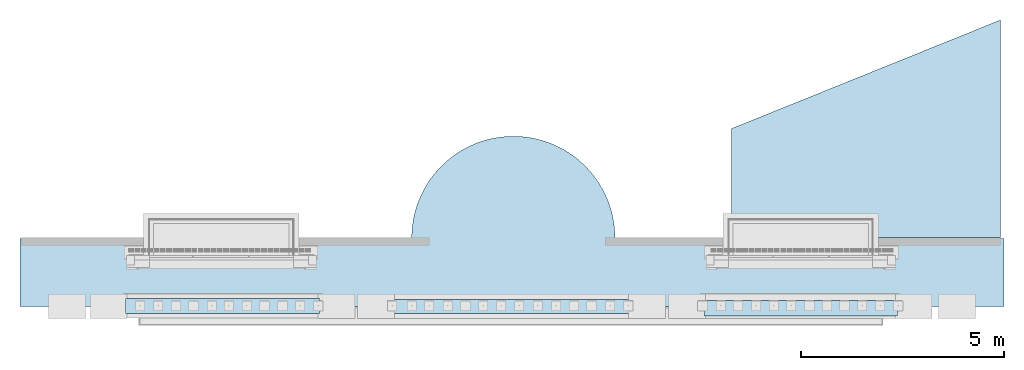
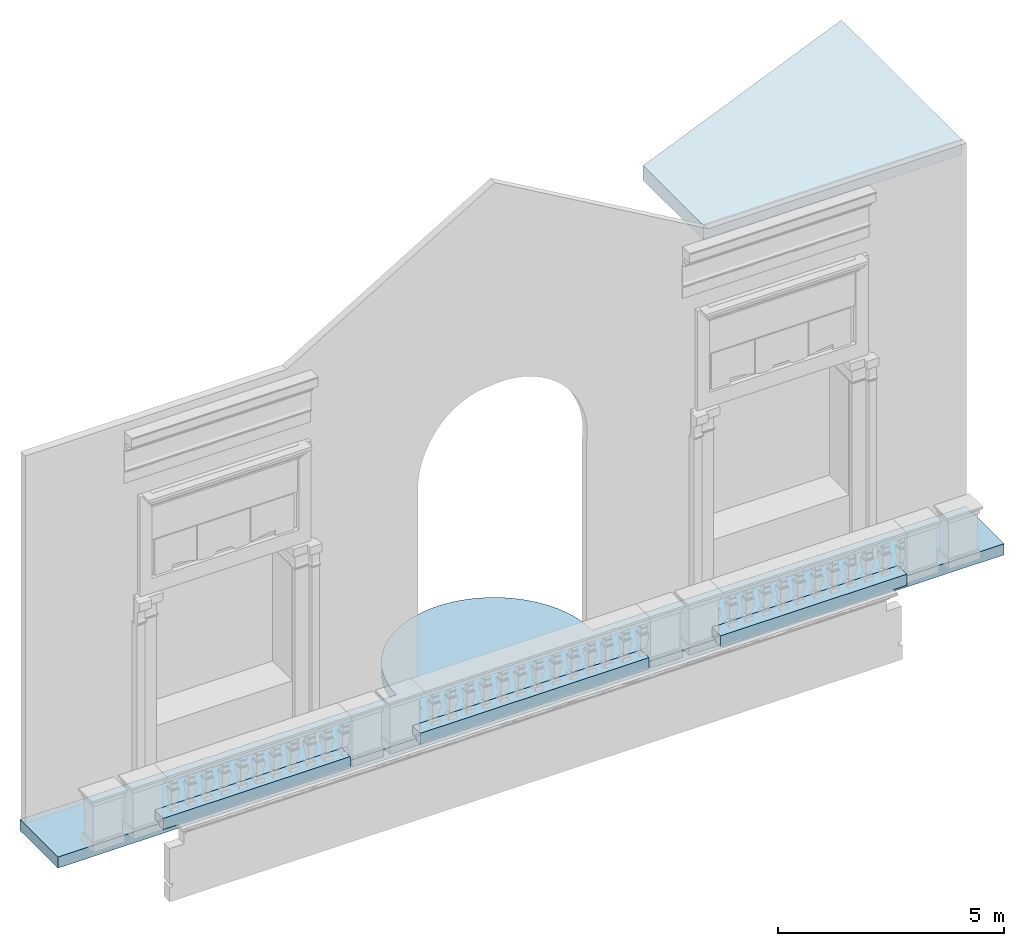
# One storey, part 1 of 14: 5 slabs, 1 element without a shape of its own.
"""IFC2X3 building model written with IfcOpenShell, lengths in metres."""

from ifc_helpers import new_model, entity, si_unit, converted_unit, derived_unit, direction, frame, frame_2d, origin, place, context, subcontext, project, spatial, polyline, circle_curve, parameter, trimmed, segment, composite_curve, rectangle, outline, extrude, material, layer, layer_set, layer_usage, element, aggregate, save


model = new_model("IFC2X3")

# Units and contexts
model_context = context("Model", 3, precision=1e-05, world=origin(), true_north=direction((6.12303176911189e-17, 1.0)))
body_context = subcontext(model_context, "Body", "Model", "MODEL_VIEW")
ifc_project = project(units=[si_unit("LENGTHUNIT", "METRE"), si_unit("AREAUNIT", "SQUARE_METRE"), si_unit("VOLUMEUNIT", "CUBIC_METRE"), converted_unit("PLANEANGLEUNIT", "DEGREE", entity("IfcRatioMeasure", 0.0174532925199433), si_unit("PLANEANGLEUNIT", "RADIAN"), dimensions=[0, 0, 0, 0, 0, 0, 0]), si_unit("MASSUNIT", "GRAM", prefix="KILO"), derived_unit("MASSDENSITYUNIT", [(si_unit("MASSUNIT", "GRAM", prefix="KILO"), 1), (si_unit("LENGTHUNIT", "METRE"), -3)]), si_unit("TIMEUNIT", "SECOND"), si_unit("FREQUENCYUNIT", "HERTZ"), si_unit("THERMODYNAMICTEMPERATUREUNIT", "DEGREE_CELSIUS"), derived_unit("THERMALTRANSMITTANCEUNIT", [(si_unit("MASSUNIT", "GRAM", prefix="KILO"), 1), (si_unit("THERMODYNAMICTEMPERATUREUNIT", "KELVIN"), -1), (si_unit("TIMEUNIT", "SECOND"), -3)]), derived_unit("VOLUMETRICFLOWRATEUNIT", [(si_unit("LENGTHUNIT", "METRE"), 3), (si_unit("TIMEUNIT", "SECOND"), -1)]), si_unit("ELECTRICCURRENTUNIT", "AMPERE"), si_unit("ELECTRICVOLTAGEUNIT", "VOLT"), si_unit("POWERUNIT", "WATT"), si_unit("FORCEUNIT", "NEWTON", prefix="KILO"), si_unit("ILLUMINANCEUNIT", "LUX"), si_unit("LUMINOUSFLUXUNIT", "LUMEN"), si_unit("LUMINOUSINTENSITYUNIT", "CANDELA"), derived_unit("USERDEFINED", [(si_unit("MASSUNIT", "GRAM", prefix="KILO"), -1), (si_unit("LENGTHUNIT", "METRE"), -2), (si_unit("TIMEUNIT", "SECOND"), 3), (si_unit("LUMINOUSFLUXUNIT", "LUMEN"), 1)]), derived_unit("LINEARVELOCITYUNIT", [(si_unit("LENGTHUNIT", "METRE"), 1), (si_unit("TIMEUNIT", "SECOND"), -1)]), si_unit("PRESSUREUNIT", "PASCAL"), derived_unit("USERDEFINED", [(si_unit("LENGTHUNIT", "METRE"), -2), (si_unit("MASSUNIT", "GRAM", prefix="KILO"), 1), (si_unit("TIMEUNIT", "SECOND"), -2)])], contexts=[model_context])

# Site, building, storey
site_placement = place(None, origin())
site = spatial("IfcSite", under=ifc_project, at=site_placement, Name="Default", CompositionType="ELEMENT")
building_placement = place(site_placement, origin())
building = spatial("IfcBuilding", under=site, at=building_placement, CompositionType="ELEMENT")
storey_placement = place(building_placement, frame((0.0, 0.0, 13.366833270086)))
storey = spatial("IfcBuildingStorey", under=building, at=storey_placement, Name="Livello 2", CompositionType="ELEMENT", Elevation=13.366833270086)

# Slabs
ifc_material_1 = material(Name="Piperno")
ifc_layer_1 = layer(ifc_material_1, 0.3)
ifc_layer_set_1 = layer_set([ifc_layer_1], Name="Pavimento:Basamento_Balaustra")
ifc_layer_usage_1 = layer_usage(ifc_layer_set_1, "AXIS3", "POSITIVE", 0.0)
slab_1_placement = place(storey_placement, frame((-9.52653938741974, -0.471829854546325, -0.0600000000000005)))
element("IfcSlab", 1, at=slab_1_placement, inside=storey, material=ifc_layer_usage_1, Name="Pavimento:Basamento_Balaustra", ObjectType="Pavimento:Basamento_Balaustra", PredefinedType="FLOOR", context=body_context, shape_type="SweptSolid", body=[
    extrude(rectangle(XDim=4.78459525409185, YDim=0.376746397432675, at=frame_2d((7.1, 0.0327058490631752), x_axis=(1.0, 0.0))), frame((9.49229762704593, 0.221079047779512, 0.299999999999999), z_axis=(0.0, 0.0, -1.0), x_axis=(-1.0, 0.0, 0.0)), (0.0, 0.0, 1.0), 0.299999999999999),
])
slab_2_placement = place(storey_placement, frame((-9.52653938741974, -0.471829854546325, -0.0600000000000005)))
element("IfcSlab", 2, at=slab_2_placement, inside=storey, material=ifc_layer_usage_1, Name="Pavimento:Basamento_Balaustra:2", ObjectType="Pavimento:Basamento_Balaustra", PredefinedType="FLOOR", context=body_context, shape_type="SweptSolid", body=[
    extrude(rectangle(XDim=5.84959525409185, YDim=0.345849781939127, at=frame_2d((-0.0074999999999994, 0.0172575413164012), x_axis=(1.0, 0.0))), frame((9.49229762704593, 0.221079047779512, 0.299999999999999), z_axis=(0.0, 0.0, -1.0), x_axis=(-1.0, 0.0, 0.0)), (0.0, 0.0, 1.0), 0.299999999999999),
])
slab_3_placement = place(storey_placement, frame((-9.52653938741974, -0.471829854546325, -0.0600000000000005)))
element("IfcSlab", 3, at=slab_3_placement, inside=storey, material=ifc_layer_usage_1, Name="Pavimento:Basamento_Balaustra:3", ObjectType="Pavimento:Basamento_Balaustra", PredefinedType="FLOOR", context=body_context, shape_type="SweptSolid", body=[
    extrude(rectangle(XDim=4.76459525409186, YDim=0.38662628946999, at=frame_2d((-7.11, -0.0277659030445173), x_axis=(1.0, 0.0))), frame((9.49229762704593, 0.221079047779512, 0.299999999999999), z_axis=(0.0, 0.0, -1.0), x_axis=(-1.0, 0.0, 0.0)), (0.0, 0.0, 1.0), 0.299999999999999),
])
ifc_material_2 = material(Name="Battuto di cemento")
ifc_layer_2 = layer(ifc_material_2, 0.3)
ifc_layer_set_2 = layer_set([ifc_layer_2], Name="Pavimento:Pavimento terrazzo primo livello")
ifc_layer_usage_2 = layer_usage(ifc_layer_set_2, "AXIS3", "POSITIVE", 0.0)
slab_4_placement = place(storey_placement, origin())
element("IfcSlab", 4, at=slab_4_placement, inside=storey, material=ifc_layer_usage_2, Name="Pavimento:Pavimento terrazzo primo livello", ObjectType="Pavimento:Pavimento terrazzo primo livello", PredefinedType="FLOOR", context=body_context, shape_type="SweptSolid", body=[
    extrude(outline(composite_curve([segment(polyline([(-1.11999999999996, -12.1108756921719), (0.560000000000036, -12.1108756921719)]), True, "CONTINUOUS"), segment(polyline([(0.560000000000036, -12.1108756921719), (0.560000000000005, -2.47823632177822)]), True, "CONTINUOUS"), segment(trimmed(circle_curve(frame_2d((0.567840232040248, 0.0217513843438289), x_axis=(-0.00313609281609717, -0.999995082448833)), 2.49999999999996), [parameter(0.0)], [parameter(180.359370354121)], True, "PARAMETER"), True, "CONTINUOUS"), segment(polyline([(0.560000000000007, 2.52173909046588), (0.559999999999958, 12.0891243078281)]), True, "CONTINUOUS"), segment(polyline([(0.559999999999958, 12.0891243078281), (-1.12000000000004, 12.0891243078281)]), True, "CONTINUOUS"), segment(polyline([(-1.12000000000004, 12.0891243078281), (-1.11999999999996, -12.1108756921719)]), True, "CONTINUOUS")], self_intersect=False)), frame((-0.0119455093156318, 0.88553250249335, 0.0), z_axis=(0.0, 0.0, -1.0), x_axis=(0.0, 1.0, 0.0)), (0.0, 0.0, 1.0), 0.299999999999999),
])

# Roof, slab
roof_placement = place(storey_placement, frame((5.37401137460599, 1.46337273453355, 9.52258250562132)))
roof = element("IfcRoof", 5, at=roof_placement, inside=storey, Name="Tetto di base:Terrazzo", ObjectType="Tetto di base:Terrazzo", ShapeType="NOTDEFINED")
ifc_material_3 = material(Name="Piastrella, Quadrello")
ifc_layer_3 = layer(ifc_material_3, 0.4)
ifc_layer_set_3 = layer_set([ifc_layer_3], Name="Tetto di base:Terrazzo")
slab_5_placement = place(roof_placement, origin())
slab_5 = element("IfcSlab", 6, at=slab_5_placement, material=ifc_layer_set_3, Name="Tetto di base:Terrazzo", ObjectType="Tetto di base:Terrazzo", PredefinedType="ROOF", context=body_context, shape_type="SweptSolid", body=[
    extrude(outline(polyline([(-3.30650626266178, 0.00327306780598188), (-3.30650626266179, -2.67510355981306), (3.30650626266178, -2.67510355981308), (3.30650626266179, 2.67510355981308), (-3.30650626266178, 0.00327306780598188)])), frame((3.30650626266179, 2.67510355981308, 0.0)), (0.0, 0.0, 1.0), 0.4),
])
aggregate(roof, [slab_5])

save(model, "model.ifc")
